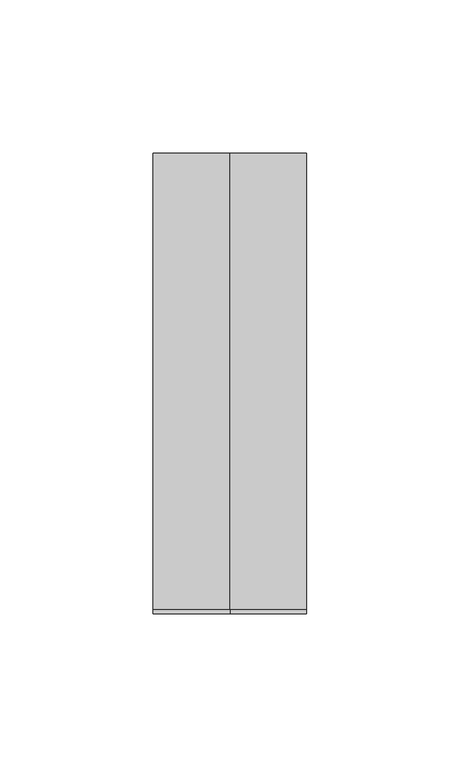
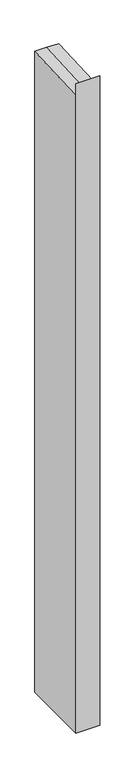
"""IFC4 building model written with IfcOpenShell, lengths in millimetres: member geometry, Прямоугольный импост : 50 x 150 мм."""

from ifc_helpers import new_model, si_unit, origin, place, context, project, spatial, faceted_brep, source, transform, mapped, element, save


def member_2a80a77f(model_context):
    return source(origin(), model_context, "Body", "Brep", [
        faceted_brep([(25.0, 75.0, -1425.0), (25.0, -75.0, -1425.0), (-25.0, -75.0, -1425.0), (-25.0, 75.0, -1425.0), (-25.0, 75.0, 3.8117461), (0.0, 75.0, 3.8117461), (25.0, 75.0, 3.8117461), (-25.0, -75.0, 23.0789758), (-25.0, -73.6218125, -3.8067479), (25.0, -75.0, 23.0789758), (0.0, -75.0, 23.0789758), (25.0, -73.6218125, -3.8067479), (0.0, -73.6218125, -3.8067479)], [[[0, 1, 2, 3]], [[4, 5, 6, 0, 3]], [[7, 8, 4, 3, 2]], [[9, 10, 7, 2, 1]], [[6, 11, 9, 1, 0]], [[6, 5, 12, 11]], [[5, 4, 8, 12]], [[8, 7, 10, 12]], [[10, 9, 11, 12]]]),
    ])


if __name__ == "__main__":
    model = new_model("IFC4")
    model_context = context("Model", 3, world=origin())
    ifc_project = project(units=[si_unit("LENGTHUNIT", "METRE", prefix="MILLI")], contexts=[model_context])
    site = spatial("IfcSite", under=ifc_project)
    building = spatial("IfcBuilding", under=site)
    placement = place(None, origin())
    member_shape = member_2a80a77f(model_context)
    element("IfcMember", 1, ObjectType="Прямоугольный импост : 50 x 150 мм", at=placement, inside=building, context=model_context, shape_type="MappedRepresentation", body=[
        mapped(member_shape, transform((0.0, 0.0, 0.0), x_axis=(1.0, 0.0, 0.0), y_axis=(0.0, 1.0, 0.0), z_axis=(0.0, 0.0, 1.0))),
    ])
    save(model, "model.ifc")
